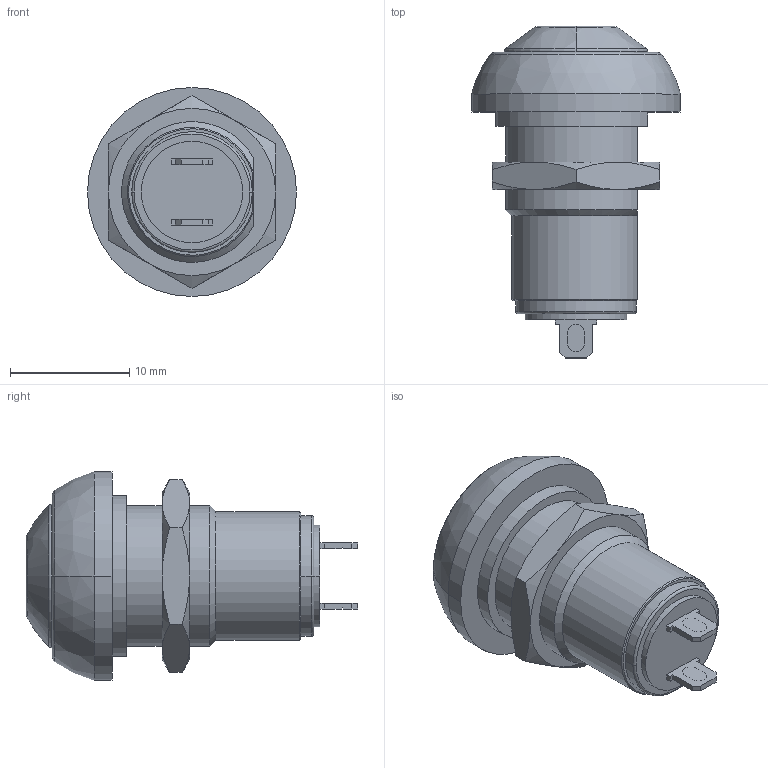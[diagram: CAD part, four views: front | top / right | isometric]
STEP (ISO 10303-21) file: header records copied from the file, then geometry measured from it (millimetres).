
FILE_DESCRIPTION((''),'2;1');
FILE_NAME('IPR1SAD2','2008-10-30T',('francis'),(''),'PRO/ENGINEER BY PARAMETRIC TECHNOLOGY CORPORATION, 2007030','PRO/ENGINEER BY PARAMETRIC TECHNOLOGY CORPORATION, 2007030','');
FILE_SCHEMA(('CONFIG_CONTROL_DESIGN'));
Length unit declared in the file: millimetre
Products named in the file (1): IPR1SAD2
Bounding box: 17.5 x 27.8 x 17.5 mm (x, y, z)
Volume: 3119.1 mm3; surface area: 1489.8 mm2
Topology: 1 solids, 1 shells, 100 faces, 239 edges, 147 vertices
Faces by surface type: plane 56, cylinder 16, cone 14, torus 8, bspline 4, sphere 2
Entity records: 3092 total; most frequent: CARTESIAN_POINT 762, ORIENTED_EDGE 474, DIRECTION 472, EDGE_CURVE 237, AXIS2_PLACEMENT_3D 167, VERTEX_POINT 147, VECTOR 138, LINE 138
